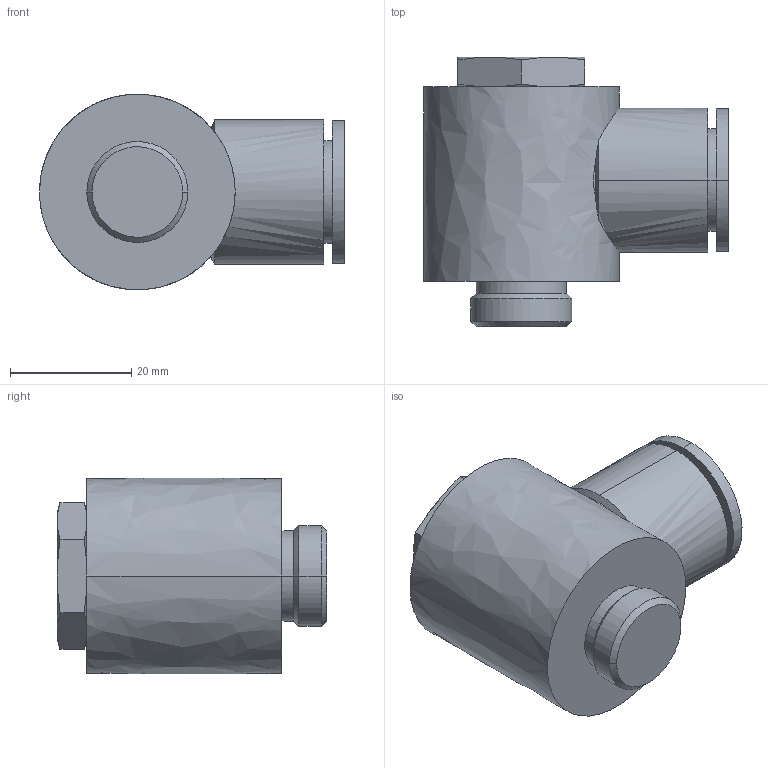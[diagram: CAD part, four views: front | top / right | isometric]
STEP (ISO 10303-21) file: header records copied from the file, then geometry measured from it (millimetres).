
FILE_DESCRIPTION (( 'STEP AP214' ), '1' );
FILE_NAME ('KQ2V16-G03A.STEP', '2023-03-09T03:03:29', ( 'Windows User' ), ( 'P R C' ), 'SwSTEP 2.0', 'SolidWorks 2019', '' );
FILE_SCHEMA (( 'AUTOMOTIVE_DESIGN' ));
Length unit declared in the file: millimetre
Products named in the file (1): KQ2V16-G03A
Bounding box: 50.35 x 44.5 x 32.3 mm (x, y, z)
Volume: 33757.5 mm3; surface area: 8668.8 mm2
Topology: 1 solids, 1 shells, 43 faces, 99 edges, 64 vertices
Faces by surface type: bspline 28, plane 15
Entity records: 2049 total; most frequent: CARTESIAN_POINT 1376, ORIENTED_EDGE 198, EDGE_CURVE 99, B_SPLINE_CURVE_WITH_KNOTS 70, VERTEX_POINT 64, EDGE_LOOP 49, ADVANCED_FACE 43, FACE_OUTER_BOUND 43
